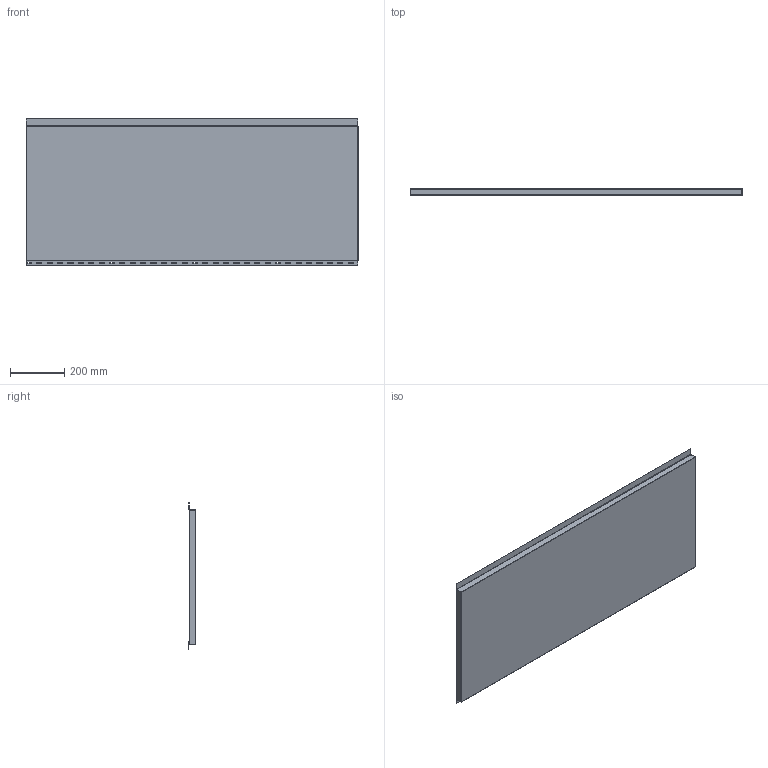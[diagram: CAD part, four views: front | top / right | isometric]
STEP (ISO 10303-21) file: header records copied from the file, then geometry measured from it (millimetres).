
FILE_DESCRIPTION(/* description */ (''),/* implementation_level */ '2;1');
FILE_NAME(/* name */ 'C:\Users\Utilisateur\Mac Metal\Site de communication - Documents\Ingénierie\1. Dessins techniques produits Mac\CAD _ REVIT Profiles drawing - MAC\Polymac\Polymac 20 x 48\SPPG24.20X48.stp',/* time_stamp */ '2023-02-08T11:06:52-05:00',/* author */ ('Utilisateur'),/* organization */ (''),/* preprocessor_version */ 'ST-DEVELOPER v18.1',/* originating_system */ 'Autodesk Inventor 2022',/* authorisation */ '');
FILE_SCHEMA (('AUTOMOTIVE_DESIGN { 1 0 10303 214 3 1 1 }'));
Length unit declared in the file: inch
Products named in the file (1): SPPG24.20X48
Bounding box: 1219.2 x 25.4 x 537.16 mm (x, y, z)
Volume: 13742506 mm3; surface area: 2793785.3 mm2
Topology: 2 solids, 2 shells, 182 faces, 526 edges, 346 vertices
Faces by surface type: plane 99, cylinder 83
Entity records: 6174 total; most frequent: DIRECTION 1058, CARTESIAN_POINT 1055, ORIENTED_EDGE 1052, EDGE_CURVE 526, LINE 360, VECTOR 360, AXIS2_PLACEMENT_3D 349, VERTEX_POINT 346
